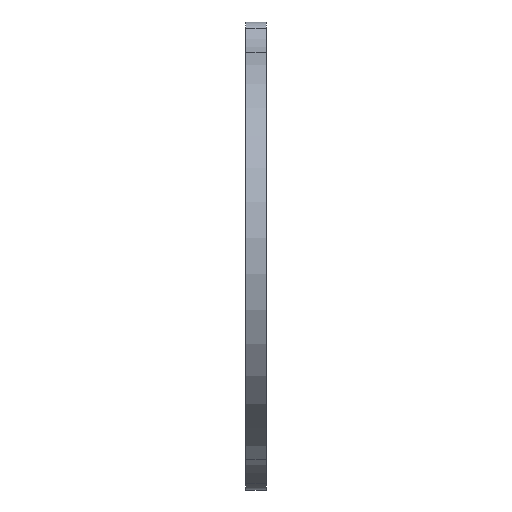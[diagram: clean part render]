
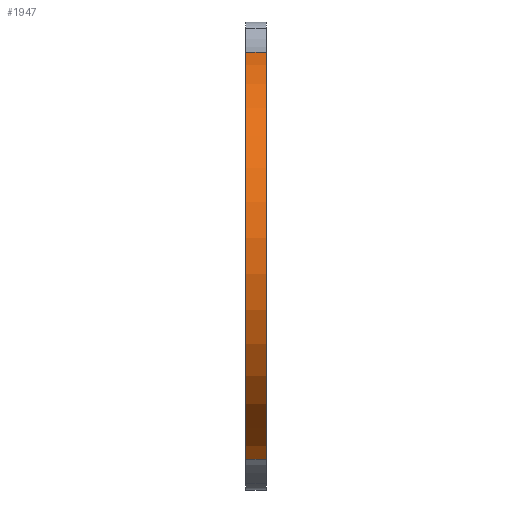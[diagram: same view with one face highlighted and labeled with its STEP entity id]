
A CAD part, left-side view. The second image highlights one B-rep face of the part: STEP entity #1947.
In plain terms, the highlighted cylindrical face has radius 81.026 mm (diameter 162.052 mm), a partial arc.
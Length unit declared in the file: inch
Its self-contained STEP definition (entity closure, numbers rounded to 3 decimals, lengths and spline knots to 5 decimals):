
#117 = CIRCLE ( 'NONE', #9055, 3.19 ) ;
#149 = ORIENTED_EDGE ( 'NONE', *, *, #8500, .T. ) ;
#228 = CARTESIAN_POINT ( 'NONE',  ( -0.87049, 0.31, -3.06893 ) ) ;
#638 = DIRECTION ( 'NONE',  ( 0., -1., 0. ) ) ;
#899 = CARTESIAN_POINT ( 'NONE',  ( 0., 0.31, 0. ) ) ;
#962 = CARTESIAN_POINT ( 'NONE',  ( -0.87049, 0.31, -3.06893 ) ) ;
#975 = DIRECTION ( 'NONE',  ( 0., -1., 0. ) ) ;
#1010 = ORIENTED_EDGE ( 'NONE', *, *, #2505, .T. ) ;
#1281 = CARTESIAN_POINT ( 'NONE',  ( 0., 0.31, 0. ) ) ;
#1327 = LINE ( 'NONE', #8651, #5262 ) ;
#1885 = VERTEX_POINT ( 'NONE', #2659 ) ;
#1947 = ADVANCED_FACE ( 'NONE', ( #8041 ), #3974, .T. ) ;
#2066 = DIRECTION ( 'NONE',  ( 0., 0., -1. ) ) ;
#2319 = EDGE_LOOP ( 'NONE', ( #2953, #5614, #1010, #149 ) ) ;
#2505 = EDGE_CURVE ( 'NONE', #3948, #7951, #5483, .T. ) ;
#2659 = CARTESIAN_POINT ( 'NONE',  ( -0.87049, 0.31, 3.06893 ) ) ;
#2726 = CARTESIAN_POINT ( 'NONE',  ( -0.87049, 0., 3.06893 ) ) ;
#2953 = ORIENTED_EDGE ( 'NONE', *, *, #7874, .F. ) ;
#3919 = DIRECTION ( 'NONE',  ( 0., 1., 0. ) ) ;
#3948 = VERTEX_POINT ( 'NONE', #5821 ) ;
#3974 = CYLINDRICAL_SURFACE ( 'NONE', #5907, 3.19 ) ;
#4760 = DIRECTION ( 'NONE',  ( 0., 1., 0. ) ) ;
#4990 = EDGE_CURVE ( 'NONE', #6120, #3948, #6236, .T. ) ;
#5262 = VECTOR ( 'NONE', #4760, 39.37008 ) ;
#5483 = CIRCLE ( 'NONE', #7924, 3.19 ) ;
#5614 = ORIENTED_EDGE ( 'NONE', *, *, #4990, .T. ) ;
#5821 = CARTESIAN_POINT ( 'NONE',  ( -0.87049, 0., -3.06893 ) ) ;
#5907 = AXIS2_PLACEMENT_3D ( 'NONE', #1281, #975, #2066 ) ;
#6120 = VERTEX_POINT ( 'NONE', #228 ) ;
#6236 = LINE ( 'NONE', #962, #8535 ) ;
#7553 = DIRECTION ( 'NONE',  ( 0., 0., 1. ) ) ;
#7874 = EDGE_CURVE ( 'NONE', #6120, #1885, #117, .T. ) ;
#7924 = AXIS2_PLACEMENT_3D ( 'NONE', #9427, #9309, #8089 ) ;
#7951 = VERTEX_POINT ( 'NONE', #2726 ) ;
#8041 = FACE_OUTER_BOUND ( 'NONE', #2319, .T. ) ;
#8089 = DIRECTION ( 'NONE',  ( 0., 0., 1. ) ) ;
#8500 = EDGE_CURVE ( 'NONE', #7951, #1885, #1327, .T. ) ;
#8535 = VECTOR ( 'NONE', #638, 39.37008 ) ;
#8651 = CARTESIAN_POINT ( 'NONE',  ( -0.87049, 0.31, 3.06893 ) ) ;
#9055 = AXIS2_PLACEMENT_3D ( 'NONE', #899, #3919, #7553 ) ;
#9309 = DIRECTION ( 'NONE',  ( 0., 1., 0. ) ) ;
#9427 = CARTESIAN_POINT ( 'NONE',  ( 0., 0., 0. ) ) ;
